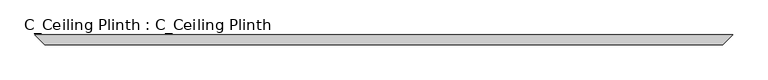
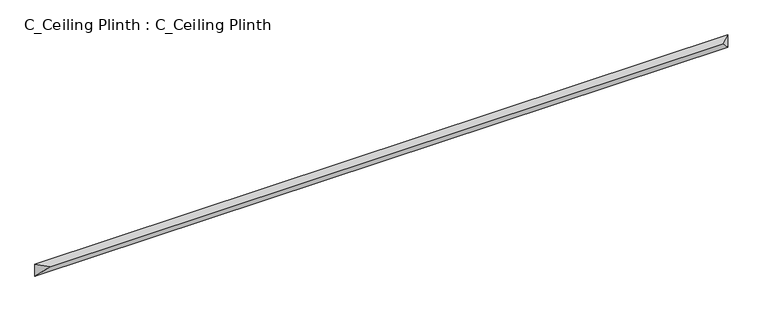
"""IFC4 building model written with IfcOpenShell, lengths in millimetres: proxy geometry, C_Ceiling Plinth : C_Ceiling Plinth."""

from ifc_helpers import new_model, si_unit, origin, place, context, project, spatial, faceted_brep, source, transform, mapped, element, save


def c_ceiling_plinth_c_ceiling_plinth_c3456988(model_context):
    return source(origin(), model_context, "Body", "Brep", [
        faceted_brep([(5486.4, 0.0, 0.0), (5486.4, 0.0, -101.6), (0.0, 0.0, -101.6), (0.0, 0.0, 0.0), (5410.2, -76.2, 0.0), (76.2, -76.2, 0.0)], [[[0, 1, 2, 3]], [[4, 0, 3, 5]], [[1, 4, 5, 2]], [[1, 0, 4]], [[3, 2, 5]]]),
    ])


if __name__ == "__main__":
    model = new_model("IFC4")
    model_context = context("Model", 3, world=origin())
    ifc_project = project(units=[si_unit("LENGTHUNIT", "METRE", prefix="MILLI")], contexts=[model_context])
    site = spatial("IfcSite", under=ifc_project)
    building = spatial("IfcBuilding", under=site)
    placement = place(None, origin())
    c_ceiling_plinth_c_ceiling_plinth_shape = c_ceiling_plinth_c_ceiling_plinth_c3456988(model_context)
    element("IfcBuildingElementProxy", 1, Name="C_Ceiling Plinth : C_Ceiling Plinth", ObjectType="C_Ceiling Plinth : C_Ceiling Plinth", at=placement, inside=building, context=model_context, shape_type="MappedRepresentation", body=[
        mapped(c_ceiling_plinth_c_ceiling_plinth_shape, transform((0.0, 0.0, 0.0), x_axis=(1.0, 0.0, 0.0), y_axis=(0.0, 1.0, 0.0), z_axis=(0.0, 0.0, 1.0))),
    ])
    save(model, "model.ifc")
